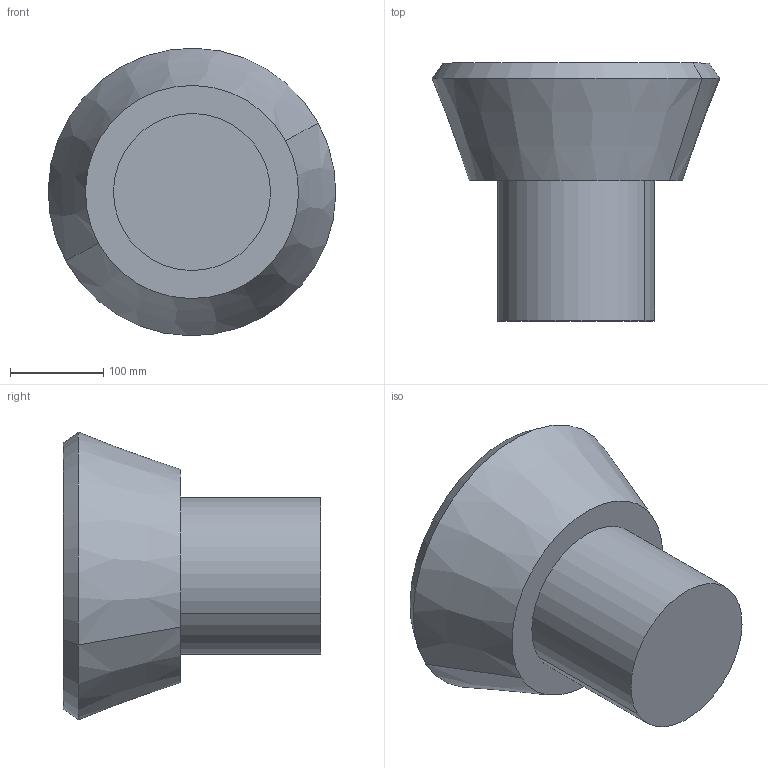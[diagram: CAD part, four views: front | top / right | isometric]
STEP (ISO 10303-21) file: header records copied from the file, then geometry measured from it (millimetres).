
FILE_DESCRIPTION(('CATIA V5 STEP Exchange'),'2;1');
FILE_NAME('C:\_Andres\UNIVERSIDAD\IQS\ASIGNATURAS\DAO\EXF\EXF-15161c\1original\Santolària_Rossell_Ej09-optimiza_v24.stp','2016-03-04T21:55:31+00:00',('none'),('none'),'CATIA Version 5 Release 20 SP 1 (IN-10)','CATIA V5 STEP AP203','none');
FILE_SCHEMA(('CONFIG_CONTROL_DESIGN'));
Length unit declared in the file: millimetre
Products named in the file (1): Santolària_Rossell_Ej09-optimiza_v24
Bounding box: 307.65 x 275.92 x 307.65 mm (x, y, z)
Volume: 10654605.7 mm3; surface area: 304804 mm2
Topology: 1 solids, 2 shells, 13 faces, 22 edges, 14 vertices
Faces by surface type: plane 5, cylinder 4, cone 4
Entity records: 324 total; most frequent: CARTESIAN_POINT 47, ORIENTED_EDGE 44, DIRECTION 42, AXIS2_PLACEMENT_3D 25, EDGE_CURVE 22, CIRCLE 14, EDGE_LOOP 14, VERTEX_POINT 14
